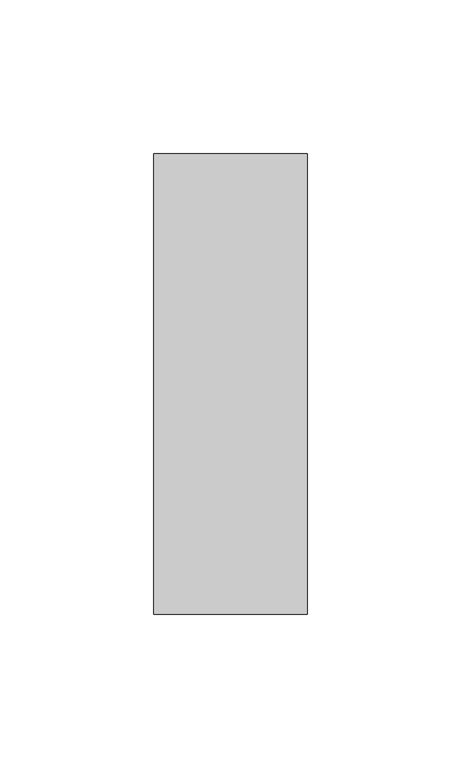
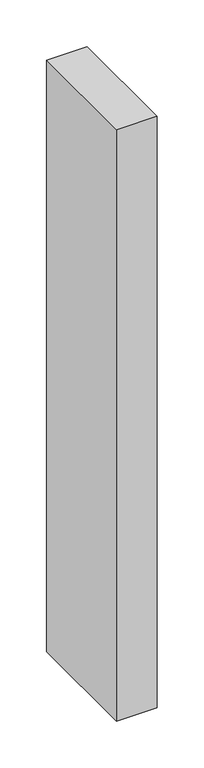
"""IFC4 building model written with IfcOpenShell, lengths in millimetres: member geometry, Прямоугольный импост : 50 x 150 мм."""

from ifc_helpers import new_model, si_unit, frame, origin, place, context, project, spatial, polyline, outline, extrude, source, transform, mapped, element, save


def member_8a9dafd9(model_context):
    return source(origin(), model_context, "Body", "SweptSolid", [
        extrude(outline(polyline([(25.0, 75.0), (25.0, -75.0), (-25.0, -75.0), (-25.0, 75.0), (25.0, 75.0)])), frame((0.0, 0.0, -771.856538), z_axis=(0.0, 0.0, 1.0), x_axis=(1.0, 0.0, 0.0)), (0.0, 0.0, 1.0), 771.856538),
    ])


if __name__ == "__main__":
    model = new_model("IFC4")
    model_context = context("Model", 3, world=origin())
    ifc_project = project(units=[si_unit("LENGTHUNIT", "METRE", prefix="MILLI")], contexts=[model_context])
    site = spatial("IfcSite", under=ifc_project)
    building = spatial("IfcBuilding", under=site)
    placement = place(None, origin())
    member_shape = member_8a9dafd9(model_context)
    element("IfcMember", 1, ObjectType="Прямоугольный импост : 50 x 150 мм", at=placement, inside=building, context=model_context, shape_type="MappedRepresentation", body=[
        mapped(member_shape, transform((0.0, 0.0, 0.0), x_axis=(1.0, 0.0, 0.0), y_axis=(0.0, 1.0, 0.0), z_axis=(0.0, 0.0, 1.0))),
    ])
    save(model, "model.ifc")
